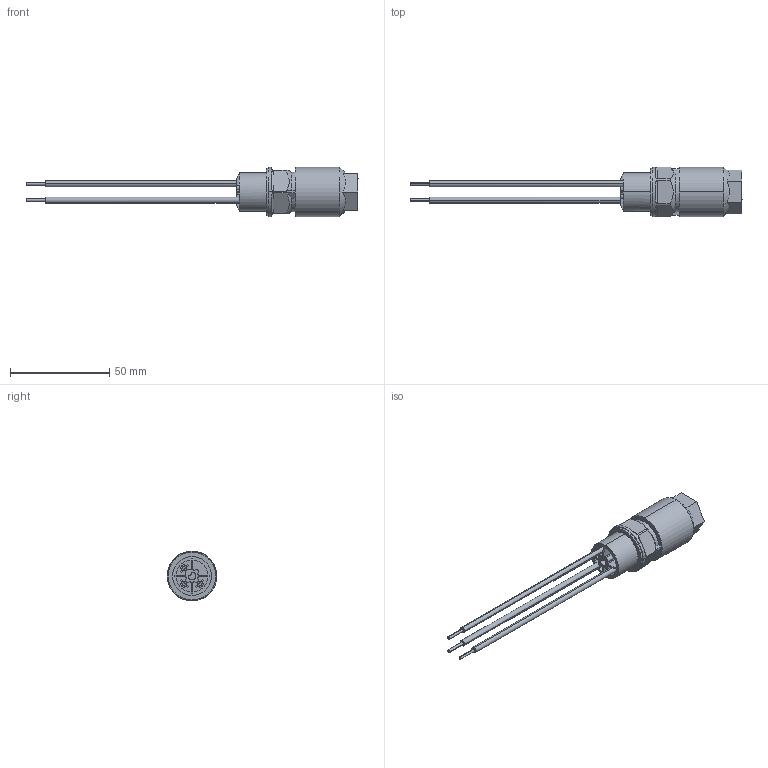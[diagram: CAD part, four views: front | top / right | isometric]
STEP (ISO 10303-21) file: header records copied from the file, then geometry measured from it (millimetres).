
FILE_DESCRIPTION(('SolidDesigner STEP Export'),'2;1');
FILE_NAME('1414685_QPD_W_2PE1.5_4-9_M20_1.0_BK-select.stp','2014-11-07T10:24:07',(''),(''),'Creo Elements/Direct Modeling STEP processor for AP214 (Solid Model)','Creo Elements/Direct Modeling 18.1B 29-Sep-2012 (C) Parametric Technology GmbH','');
FILE_SCHEMA(('AUTOMOTIVE_DESIGN { 1 0 10303 214 1 1 1 1 }'));
Length unit declared in the file: millimetre
Products named in the file (2): 1414685_QPD_W_2PE1.5_4-9_M20_1.0_BK-select
Assembly tree (1 placements, depth 2):
  1414685_QPD_W_2PE1.5_4-9_M20_1.0_BK-select
    1414685_QPD_W_2PE1.5_4-9_M20_1.0_BK-select
Bounding box: 167.5 x 25 x 25 mm (x, y, z)
Volume: 23354.5 mm3; surface area: 10749.8 mm2
Topology: 1 solids, 1 shells, 146 faces, 383 edges, 251 vertices
Faces by surface type: plane 82, cylinder 54, cone 10
Entity records: 7807 total; most frequent: CARTESIAN_POINT 3212, ORIENTED_EDGE 766, DIRECTION 616, EDGE_CURVE 383, VERTEX_POINT 251, AXIS2_PLACEMENT_3D 211, VECTOR 194, LINE 194
